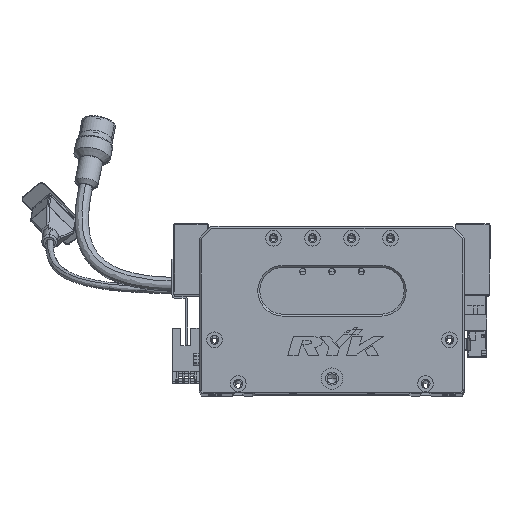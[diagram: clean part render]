
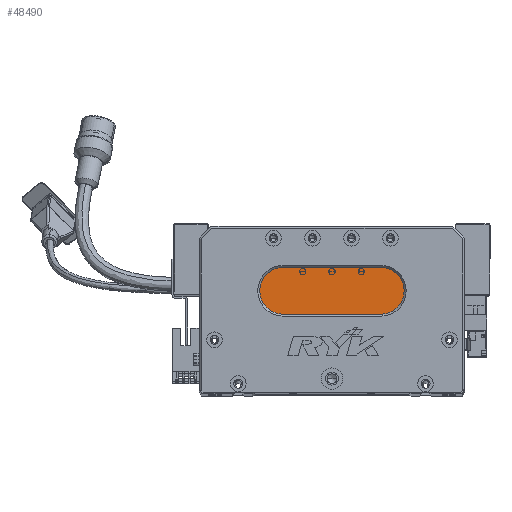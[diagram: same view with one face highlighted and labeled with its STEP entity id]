
A CAD part, top view. The second image highlights one B-rep face of the part: STEP entity #48490.
In plain terms, the highlighted planar face has unit normal (0, 0, 1) as drawn and (0, 0, -1) by its records, which use the part's own axes.
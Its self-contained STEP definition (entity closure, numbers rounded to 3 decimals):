
#1689 = DIRECTION ( 'NONE',  ( -1., 0., 0. ) ) ;
#2452 = FACE_OUTER_BOUND ( 'NONE', #50696, .T. ) ;
#2657 = CARTESIAN_POINT ( 'NONE',  ( 93., 40., 13. ) ) ;
#8206 = CARTESIAN_POINT ( 'NONE',  ( 93., 64., 13. ) ) ;
#8302 = VERTEX_POINT ( 'NONE', #37973 ) ;
#9199 = ORIENTED_EDGE ( 'NONE', *, *, #26456, .T. ) ;
#12408 = VERTEX_POINT ( 'NONE', #14840 ) ;
#14446 = ORIENTED_EDGE ( 'NONE', *, *, #19825, .T. ) ;
#14453 = CIRCLE ( 'NONE', #21559, 12. ) ;
#14840 = CARTESIAN_POINT ( 'NONE',  ( 43., 64., 13. ) ) ;
#14985 = VECTOR ( 'NONE', #47683, 1000. ) ;
#19825 = EDGE_CURVE ( 'NONE', #76987, #12408, #53087, .T. ) ;
#20325 = DIRECTION ( 'NONE',  ( 0., 0., -1. ) ) ;
#21559 = AXIS2_PLACEMENT_3D ( 'NONE', #51571, #20325, #71456 ) ;
#22127 = DIRECTION ( 'NONE',  ( 0., 0., -1. ) ) ;
#22613 = CARTESIAN_POINT ( 'NONE',  ( 93., 52., 13. ) ) ;
#22689 = CARTESIAN_POINT ( 'NONE',  ( 43., 52., 13. ) ) ;
#25708 = DIRECTION ( 'NONE',  ( -1., 0., 0. ) ) ;
#26456 = EDGE_CURVE ( 'NONE', #8302, #76987, #35062, .T. ) ;
#28103 = CARTESIAN_POINT ( 'NONE',  ( 93., 64., 13. ) ) ;
#30032 = AXIS2_PLACEMENT_3D ( 'NONE', #22689, #22127, #67573 ) ;
#31937 = CARTESIAN_POINT ( 'NONE',  ( 31., 52., 13. ) ) ;
#34860 = LINE ( 'NONE', #2657, #71484 ) ;
#35062 = CIRCLE ( 'NONE', #73966, 12. ) ;
#37973 = CARTESIAN_POINT ( 'NONE',  ( 43., 40., 13. ) ) ;
#38329 = AXIS2_PLACEMENT_3D ( 'NONE', #22613, #84202, #25708 ) ;
#40590 = DIRECTION ( 'NONE',  ( 0., 0., -1. ) ) ;
#41234 = VERTEX_POINT ( 'NONE', #8206 ) ;
#44100 = EDGE_CURVE ( 'NONE', #12408, #41234, #56601, .T. ) ;
#47126 = CARTESIAN_POINT ( 'NONE',  ( 43., 52., 13. ) ) ;
#47683 = DIRECTION ( 'NONE',  ( 1., 0., 0. ) ) ;
#48090 = CARTESIAN_POINT ( 'NONE',  ( 93., 40., 13. ) ) ;
#48490 = ADVANCED_FACE ( 'NONE', ( #2452 ), #70332, .T. ) ;
#48827 = EDGE_CURVE ( 'NONE', #69997, #8302, #34860, .T. ) ;
#50696 = EDGE_LOOP ( 'NONE', ( #71316, #52989, #9199, #14446, #77824 ) ) ;
#51571 = CARTESIAN_POINT ( 'NONE',  ( 93., 52., 13. ) ) ;
#52989 = ORIENTED_EDGE ( 'NONE', *, *, #48827, .T. ) ;
#53087 = CIRCLE ( 'NONE', #30032, 12. ) ;
#56601 = LINE ( 'NONE', #28103, #14985 ) ;
#67573 = DIRECTION ( 'NONE',  ( -1., 0., 0. ) ) ;
#69997 = VERTEX_POINT ( 'NONE', #48090 ) ;
#70332 = PLANE ( 'NONE',  #38329 ) ;
#71316 = ORIENTED_EDGE ( 'NONE', *, *, #76874, .T. ) ;
#71456 = DIRECTION ( 'NONE',  ( -1., 0., 0. ) ) ;
#71484 = VECTOR ( 'NONE', #79908, 1000. ) ;
#73966 = AXIS2_PLACEMENT_3D ( 'NONE', #47126, #40590, #1689 ) ;
#76874 = EDGE_CURVE ( 'NONE', #41234, #69997, #14453, .T. ) ;
#76987 = VERTEX_POINT ( 'NONE', #31937 ) ;
#77824 = ORIENTED_EDGE ( 'NONE', *, *, #44100, .T. ) ;
#79908 = DIRECTION ( 'NONE',  ( -1., 0., 0. ) ) ;
#84202 = DIRECTION ( 'NONE',  ( 0., 0., -1. ) ) ;
